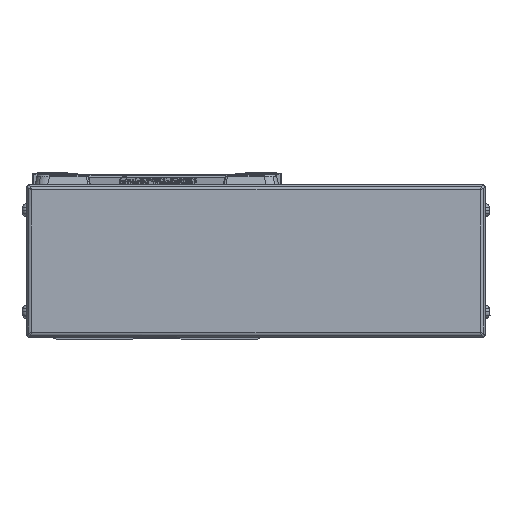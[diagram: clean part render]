
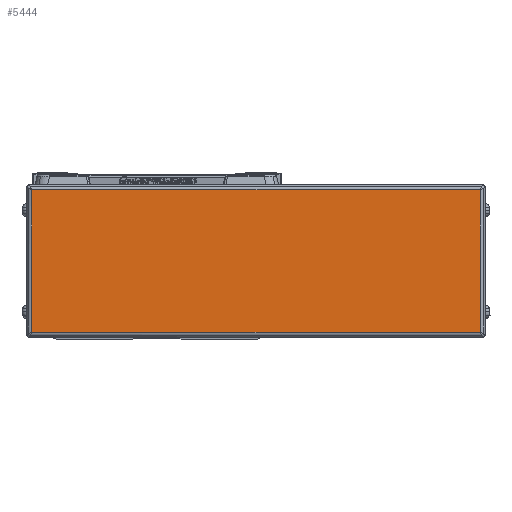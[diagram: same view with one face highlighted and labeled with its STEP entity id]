
A CAD part, left-side view. The second image highlights one B-rep face of the part: STEP entity #5444.
In plain terms, the highlighted planar face has unit normal (-1, 0, 0).
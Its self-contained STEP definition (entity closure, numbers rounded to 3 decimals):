
#5444=ADVANCED_FACE('',(#11118),#11119,.T.);
#11118=FACE_OUTER_BOUND('',#17673,.T.);
#11119=PLANE('',#17674);
#17673=EDGE_LOOP('',(#33296,#33297,#33298,#33299));
#17674=AXIS2_PLACEMENT_3D('',#33300,#33301,#33302);
#33296=ORIENTED_EDGE('',*,*,#39457,.F.);
#33297=ORIENTED_EDGE('',*,*,#35109,.F.);
#33298=ORIENTED_EDGE('',*,*,#40785,.F.);
#33299=ORIENTED_EDGE('',*,*,#40212,.F.);
#33300=CARTESIAN_POINT('',(-616.,-39.,0.));
#33301=DIRECTION('',(-1.0,0.,0.));
#33302=DIRECTION('',(0.,0.,1.0));
#35109=EDGE_CURVE('',#41776,#41778,#41779,.T.);
#39457=EDGE_CURVE('',#41778,#48474,#48475,.T.);
#40212=EDGE_CURVE('',#48474,#49277,#49539,.T.);
#40785=EDGE_CURVE('',#49277,#41776,#50306,.T.);
#41776=VERTEX_POINT('',#51523);
#41778=VERTEX_POINT('',#51525);
#41779=LINE('',#51526,#51527);
#48474=VERTEX_POINT('',#60839);
#48475=LINE('',#60840,#60841);
#49277=VERTEX_POINT('',#61930);
#49539=LINE('',#62266,#62267);
#50306=LINE('',#63300,#63301);
#51523=CARTESIAN_POINT('',(-616.0,49.2,-28.));
#51525=CARTESIAN_POINT('',(-616.,49.2,28.));
#51526=CARTESIAN_POINT('',(-616.0,49.2,0.));
#51527=VECTOR('',#64526,10.0);
#60839=CARTESIAN_POINT('',(-616.,-127.2,28.));
#60840=CARTESIAN_POINT('',(-616.,-39.,28.));
#60841=VECTOR('',#70248,10.0);
#61930=CARTESIAN_POINT('',(-616.,-127.2,-28.));
#62266=CARTESIAN_POINT('',(-616.,-127.2,0.));
#62267=VECTOR('',#71176,10.0);
#63300=CARTESIAN_POINT('',(-616.,-39.,-28.));
#63301=VECTOR('',#71837,10.0);
#64526=DIRECTION('',(0.,0.,1.0));
#70248=DIRECTION('',(0.,-1.0,0.));
#71176=DIRECTION('',(0.,0.,-1.0));
#71837=DIRECTION('',(0.,1.0,0.));
